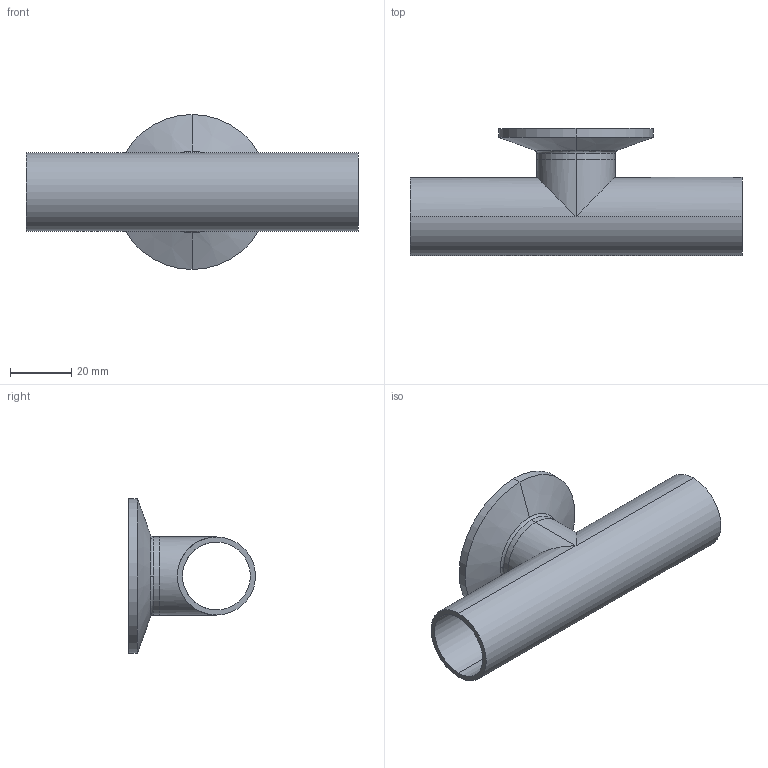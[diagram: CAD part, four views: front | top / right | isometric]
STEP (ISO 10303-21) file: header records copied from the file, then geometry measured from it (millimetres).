
FILE_DESCRIPTION (( 'STEP AP214' ), '1' );
FILE_NAME ('TE7WWCS6L1.0-...STEP', '2016-05-24T12:04:32', ( 'eran' ), ( '' ), 'SwSTEP 2.0', 'SolidWorks 2016', '' );
FILE_SCHEMA (( 'AUTOMOTIVE_DESIGN' ));
Length unit declared in the file: millimetre
Products named in the file (1): TE7WWCS6L1.0-..
Bounding box: 108 x 41.3 x 50.39 mm (x, y, z)
Volume: 22024.6 mm3; surface area: 21719.1 mm2
Topology: 2 solids, 2 shells, 38 faces, 92 edges, 58 vertices
Faces by surface type: cylinder 16, bspline 10, plane 6, cone 6
Entity records: 1687 total; most frequent: CARTESIAN_POINT 753, DIRECTION 198, ORIENTED_EDGE 184, EDGE_CURVE 92, AXIS2_PLACEMENT_3D 87, VERTEX_POINT 58, CIRCLE 58, EDGE_LOOP 44
